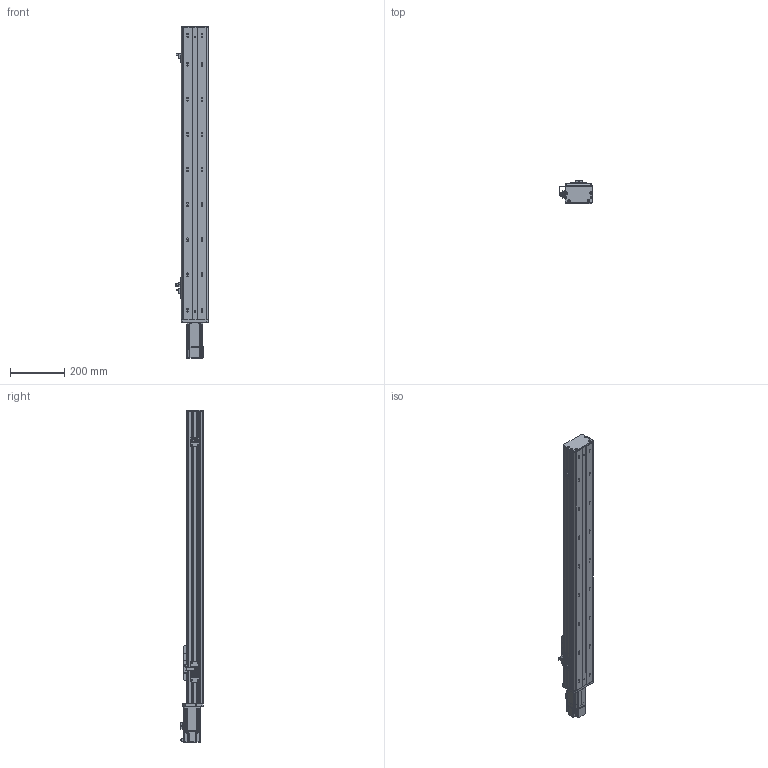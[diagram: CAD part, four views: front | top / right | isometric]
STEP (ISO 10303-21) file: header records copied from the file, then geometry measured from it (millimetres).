
FILE_DESCRIPTION (( 'STEP AP203' ), '1' );
FILE_NAME ('BOSW100-850-1610-1P-CM-M400W-O-S3（方程式2016）.step', '2020-10-10T06:36:41', ( '' ), ( '' ), 'SwSTEP 2.0', 'SolidWorks 2016', '' );
FILE_SCHEMA (( 'CONFIG_CONTROL_DESIGN' ));
Length unit declared in the file: millimetre
Products named in the file (13): BOSW&TW-100-俋离覜茼え; 放大器内置U型微型光电传感器PM-L65; BOSW-100-綴裔啣; BOSW-100-CM-宽轨-三菱M200W&400W马达板(新结构); 新结构AIMSW-100-1P-宽&高轨共用-滑动座上组件; BOSW-100-1P-CM-850諦誧芞; 俋境嫖覜嘐隅啣; BOSW100-850-1610-1P-CM-M400W-O-S3（方程式2016）; BOSW&TW-100-詩湍揤沭(陔賦凳); S400W(SMA-L040); BOSW-100-1P-CM-宽轨-侧板-850客户图纸; BOSW&TW-100-1P-賑雄釱欶; BOSW-100-1P-CM-宽轨-钢带-850客户图纸
Assembly tree (18 placements, depth 2):
  BOSW100-850-1610-1P-CM-M400W-O-S3（方程式2016）
    BOSW-100-1P-CM-850諦誧芞
    BOSW-100-綴裔啣
    新结构AIMSW-100-1P-宽&高轨共用-滑动座上组件
    S400W(SMA-L040)
    BOSW&TW-100-詩湍揤沭(陔賦凳)  x2
    BOSW&TW-100-1P-賑雄釱欶
    BOSW&TW-100-俋离覜茼え
    俋境嫖覜嘐隅啣  x3
    放大器内置U型微型光电传感器PM-L65  x3
    BOSW-100-CM-宽轨-三菱M200W&400W马达板(新结构)
    BOSW-100-1P-CM-宽轨-侧板-850客户图纸  x2
    BOSW-100-1P-CM-宽轨-钢带-850客户图纸
Bounding box: 120.9 x 85.5 x 1227.8 mm (x, y, z)
Volume: 2397448.2 mm3; surface area: 1071168.4 mm2
Topology: 18 solids, 18 shells, 2537 faces, 6702 edges, 4277 vertices
Faces by surface type: plane 1228, cylinder 825, bspline 271, cone 165, torus 36, sphere 12
Entity records: 69680 total; most frequent: CARTESIAN_POINT 20876, ORIENTED_EDGE 9944, DIRECTION 9674, EDGE_CURVE 4972, AXIS2_PLACEMENT_3D 3460, VERTEX_POINT 3179, VECTOR 2754, LINE 2754
